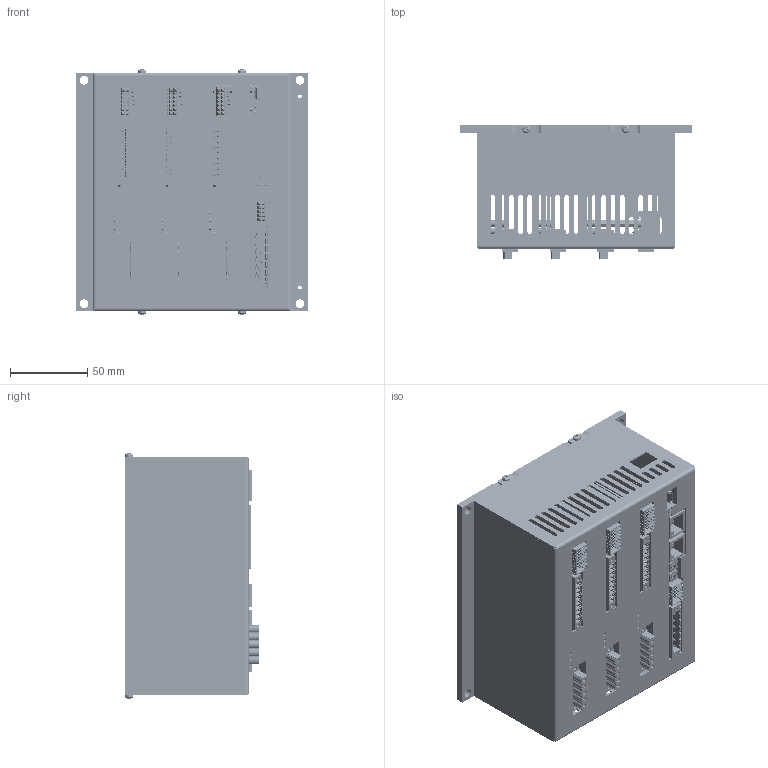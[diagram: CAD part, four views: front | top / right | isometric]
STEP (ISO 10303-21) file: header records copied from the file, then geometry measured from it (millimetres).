
FILE_DESCRIPTION(/* description */ ('Unknown'),/* implementation_level */ '2;1');
FILE_NAME(/* name */ 'SW5D3070x4T2-3x',/* time_stamp */ '2025-11-14T17:04:30+01:00',/* author */ ('Unknown'),/* organization */ ('Unknown'),/* preprocessor_version */ 'ST-DEVELOPER v16.7',/* originating_system */ 'Solid Edge',/* authorisation */ 'Unknown');
FILE_SCHEMA (('AUTOMOTIVE_DESIGN {1 0 10303 214 3 1 1}'));
Products named in the file (61): SW5D30 3 assi con ISD09; Piastra Posteriore per SW5D30 con ISD09; Scheda motore con dissipatore_oa_0; Dissipatore per SW5D30 con ISD09 con inserti; Dissipatore per SW5D30 con ISD09; inserto_m2_5x08mm; ISD09-00_2024-11-05_1_oa_1; Board; Open CASCADE STEP translator 7.5 2.1.1; CN4; MC-1-5-9-GF-3-5_BK; LED402; LED_HSMx-C680; LED401; LED400; CN3; dinkle_0156-1514; CN2; IC-2E5-5-GF-5-08 BK; Mica Isolante per SW5D30 con ISD09; Scheda motore con dissipatore_oa_2; ISD09-00_2024-11-05_1_oa_3; Scheda motore con dissipatore_oa_4; ISD09-00_2024-11-05_1_oa_5; WSX01-00_2024-11-05_1_oa_6; Open CASCADE STEP translator 7.5 3.1.1; CN6; USB4085-GF-A; USB4085-GF-A_PART1; USB4085-GF-A_PART2; SW301; RTE0400V04; SW300; LED200; LED101; Dialight_598-8510-207F_Rosso Verde; LED100; CN5B; J0011D01BNL; CN5A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
Assembly tree (118 placements, depth 5):
  SW5D30 3 assi con ISD09
    Piastra Posteriore per SW5D30 con ISD09
    Scheda motore con dissipatore_oa_0
      Dissipatore per SW5D30 con ISD09 con inserti
        Dissipatore per SW5D30 con ISD09
        inserto_m2_5x08mm  x3
      ISD09-00_2024-11-05_1_oa_1
        Board
          Open CASCADE STEP translator 7.5 2.1.1
        CN4
          MC-1-5-9-GF-3-5_BK
        LED402
          LED_HSMx-C680
        LED401
          LED_HSMx-C680
        LED400
          LED_HSMx-C680
        CN3
          dinkle_0156-1514
        CN2
          IC-2E5-5-GF-5-08 BK
      Mica Isolante per SW5D30 con ISD09
    Scheda motore con dissipatore_oa_2
      Dissipatore per SW5D30 con ISD09 con inserti
        Dissipatore per SW5D30 con ISD09
        inserto_m2_5x08mm  x3
      ISD09-00_2024-11-05_1_oa_3
        Board
          Open CASCADE STEP translator 7.5 2.1.1
        CN4
          MC-1-5-9-GF-3-5_BK
        LED402
          LED_HSMx-C680
        LED401
          LED_HSMx-C680
        LED400
          LED_HSMx-C680
        CN3
          dinkle_0156-1514
        CN2
          IC-2E5-5-GF-5-08 BK
      Mica Isolante per SW5D30 con ISD09
    Scheda motore con dissipatore_oa_4
      Dissipatore per SW5D30 con ISD09 con inserti
        Dissipatore per SW5D30 con ISD09
        inserto_m2_5x08mm  x3
      ISD09-00_2024-11-05_1_oa_5
        Board
          Open CASCADE STEP translator 7.5 2.1.1
        CN4
          MC-1-5-9-GF-3-5_BK
        LED402
          LED_HSMx-C680
        LED401
          LED_HSMx-C680
        LED400
          LED_HSMx-C680
        CN3
          dinkle_0156-1514
        CN2
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Bounding box: 150 x 86.32 x 159 mm (x, y, z)
Volume: 389290.1 mm3; surface area: 381675.4 mm2
Topology: 95 solids, 96 shells, 11333 faces, 29526 edges, 19017 vertices
Faces by surface type: plane 8785, cylinder 2080, cone 321, bspline 117, torus 16, sphere 14
Full cylindrical faces by diameter (mm): 0.1 x4, 0.35 x1, 0.38 x1, 0.4 x16, 0.457 x6, 0.55 x1, 0.7 x2, 0.762 x62, 0.8 x12, 0.888 x16, 1 x2, 1.016 x8, 1.02 x3, 1.2 x58, 1.25 x27, 1.27 x8, 1.3 x18, 1.4 x151, 1.6 x44, 1.8 x16, 2 x12, 2.013 x16, 2.05 x9, 2.4 x18, 2.459 x2, 2.5 x63, 2.7 x29, 2.8 x12, 3.2 x4, 3.242 x6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
Entity records: 228488 total; most frequent: CARTESIAN_POINT 50852, ORIENTED_EDGE 30722, DIRECTION 29509, EDGE_CURVE 15363, LINE 12441, VECTOR 12441, VERTEX_POINT 10135, AXIS2_PLACEMENT_3D 8534
